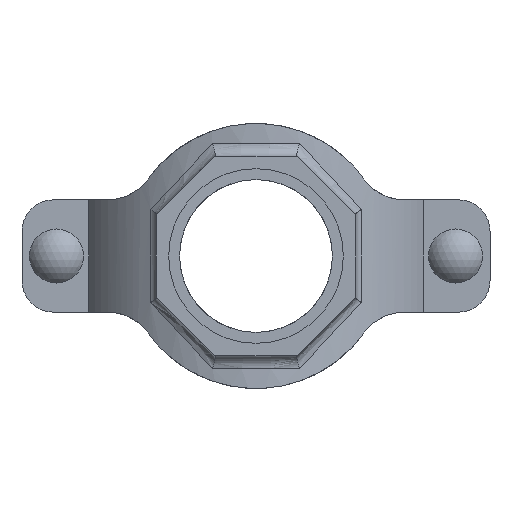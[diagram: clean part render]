
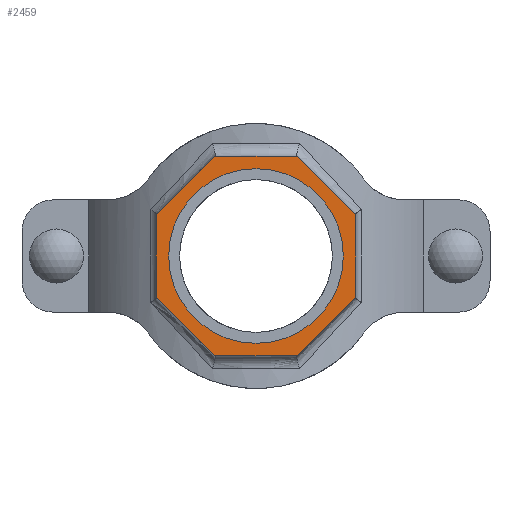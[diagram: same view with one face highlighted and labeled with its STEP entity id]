
A CAD part, front view. The second image highlights one B-rep face of the part: STEP entity #2459.
In plain terms, the highlighted planar face has unit normal (0, -1, 0) as drawn and (0, 1, 0) by its records, which use the part's own axes.
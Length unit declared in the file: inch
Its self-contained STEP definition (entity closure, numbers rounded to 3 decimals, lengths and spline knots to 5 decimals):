
#178=FACE_BOUND('',#443,.T.);
#295=FACE_OUTER_BOUND('',#442,.T.);
#442=EDGE_LOOP('',(#2070,#2071,#2072,#2073,#2074,#2075,#2076,#2077));
#443=EDGE_LOOP('',(#2078));
#576=LINE('',#4635,#758);
#579=LINE('',#4640,#761);
#581=LINE('',#4644,#763);
#583=LINE('',#4648,#765);
#621=LINE('',#5051,#803);
#623=LINE('',#5055,#805);
#625=LINE('',#5059,#807);
#627=LINE('',#5062,#809);
#758=VECTOR('',#3180,0.3937);
#761=VECTOR('',#3185,0.3937);
#763=VECTOR('',#3189,0.3937);
#765=VECTOR('',#3193,0.3937);
#803=VECTOR('',#3319,0.3937);
#805=VECTOR('',#3323,0.3937);
#807=VECTOR('',#3327,0.3937);
#809=VECTOR('',#3331,0.3937);
#891=CIRCLE('',#2714,1.75);
#1065=VERTEX_POINT('',#4632);
#1066=VERTEX_POINT('',#4634);
#1067=VERTEX_POINT('',#4638);
#1068=VERTEX_POINT('',#4642);
#1069=VERTEX_POINT('',#4646);
#1100=VERTEX_POINT('',#4888);
#1124=VERTEX_POINT('',#5050);
#1125=VERTEX_POINT('',#5054);
#1126=VERTEX_POINT('',#5058);
#1366=EDGE_CURVE('',#1066,#1065,#576,.T.);
#1369=EDGE_CURVE('',#1065,#1067,#579,.T.);
#1371=EDGE_CURVE('',#1067,#1068,#581,.T.);
#1373=EDGE_CURVE('',#1068,#1069,#583,.T.);
#1413=EDGE_CURVE('',#1100,#1100,#891,.T.);
#1447=EDGE_CURVE('',#1124,#1066,#621,.T.);
#1449=EDGE_CURVE('',#1125,#1124,#623,.T.);
#1451=EDGE_CURVE('',#1126,#1125,#625,.T.);
#1453=EDGE_CURVE('',#1069,#1126,#627,.T.);
#2070=ORIENTED_EDGE('',*,*,#1453,.T.);
#2071=ORIENTED_EDGE('',*,*,#1451,.T.);
#2072=ORIENTED_EDGE('',*,*,#1449,.T.);
#2073=ORIENTED_EDGE('',*,*,#1447,.T.);
#2074=ORIENTED_EDGE('',*,*,#1366,.T.);
#2075=ORIENTED_EDGE('',*,*,#1369,.T.);
#2076=ORIENTED_EDGE('',*,*,#1371,.T.);
#2077=ORIENTED_EDGE('',*,*,#1373,.T.);
#2078=ORIENTED_EDGE('',*,*,#1413,.T.);
#2208=PLANE('',#2737);
#2459=ADVANCED_FACE('',(#295,#178),#2208,.T.);
#2714=AXIS2_PLACEMENT_3D('',#4889,#3261,#3262);
#2737=AXIS2_PLACEMENT_3D('',#5063,#3332,#3333);
#3180=DIRECTION('',(0.,0.,1.));
#3185=DIRECTION('',(0.707,0.,0.707));
#3189=DIRECTION('',(1.,0.,0.));
#3193=DIRECTION('',(0.707,0.,-0.707));
#3261=DIRECTION('center_axis',(0.,-1.,0.));
#3262=DIRECTION('ref_axis',(-1.,0.,0.));
#3319=DIRECTION('',(-0.707,0.,0.707));
#3323=DIRECTION('',(-1.,0.,0.));
#3327=DIRECTION('',(-0.707,0.,-0.707));
#3331=DIRECTION('',(0.,0.,-1.));
#3332=DIRECTION('center_axis',(0.,1.,0.));
#3333=DIRECTION('ref_axis',(0.,0.,1.));
#4632=CARTESIAN_POINT('',(-2.,5.5,0.82843));
#4634=CARTESIAN_POINT('',(-2.,5.5,-0.82843));
#4635=CARTESIAN_POINT('',(-2.,5.5,0.82843));
#4638=CARTESIAN_POINT('',(-0.82843,5.5,2.));
#4640=CARTESIAN_POINT('',(-0.82843,5.5,2.));
#4642=CARTESIAN_POINT('',(0.82843,5.5,2.));
#4644=CARTESIAN_POINT('',(0.82843,5.5,2.));
#4646=CARTESIAN_POINT('',(2.,5.5,0.82843));
#4648=CARTESIAN_POINT('',(2.,5.5,0.82843));
#4888=CARTESIAN_POINT('',(1.75,5.5,0.));
#4889=CARTESIAN_POINT('Origin',(0.,5.5,0.));
#5050=CARTESIAN_POINT('',(-0.82843,5.5,-2.));
#5051=CARTESIAN_POINT('',(-2.,5.5,-0.82843));
#5054=CARTESIAN_POINT('',(0.82843,5.5,-2.));
#5055=CARTESIAN_POINT('',(-0.82843,5.5,-2.));
#5058=CARTESIAN_POINT('',(2.,5.5,-0.82843));
#5059=CARTESIAN_POINT('',(0.82843,5.5,-2.));
#5062=CARTESIAN_POINT('',(2.,5.5,-0.82843));
#5063=CARTESIAN_POINT('Origin',(0.,5.5,0.));
